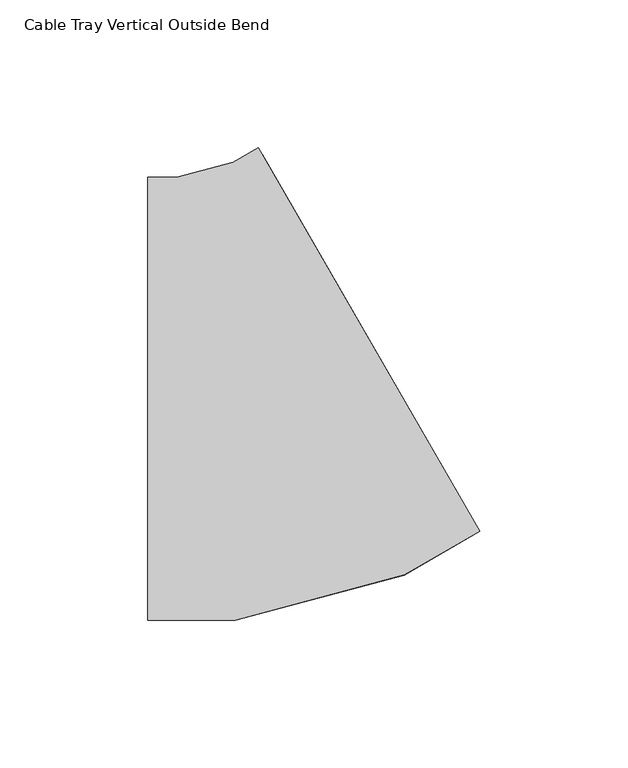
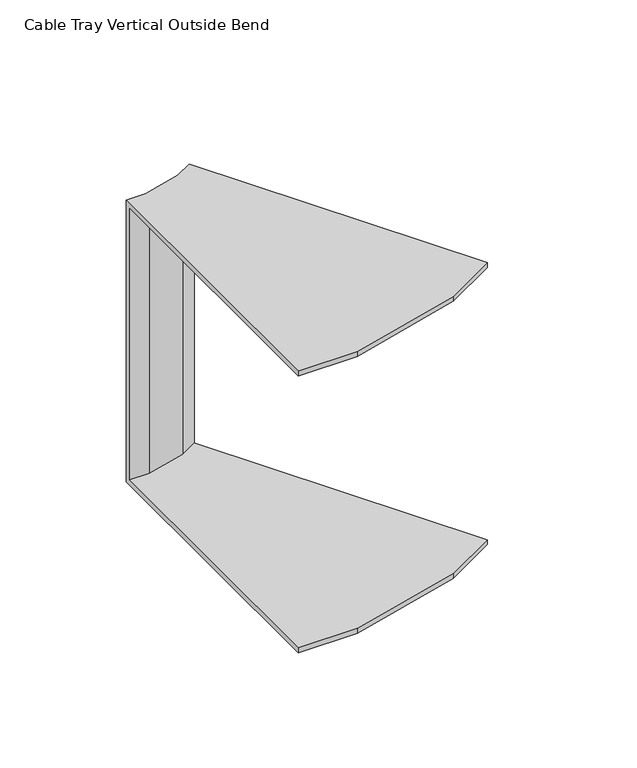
"""IFC4 building model written with IfcOpenShell, lengths in millimetres: cable carrier fitting geometry, Cable Tray Vertical Outside Bend : ELEC_ELV_TKG_N2402."""

from ifc_helpers import new_model, si_unit, origin, place, context, project, spatial, faceted_brep, source, transform, mapped, element, save


def cable_tray_vertical_outside_bend_05a7bdd1(model_context):
    return source(origin(), model_context, "Body", "Brep", [
        faceted_brep([(-40.1956671, -75.0, 75.0), (-40.1956671, 75.0, 75.0), (-40.1956671, 75.0, -75.0), (-40.1956671, -75.0, -75.0), (-40.1956671, -75.0, -72.46), (-40.1956671, 72.46, -72.46), (-40.1956671, 72.46, 72.46), (-40.1956671, -75.0, 72.46), (72.3123035, -44.8511138, 75.0), (72.3123035, -44.8511138, 72.46), (-1.4229202, 82.8499762, 72.46), (-1.4229202, 82.8499762, -72.46), (72.3123035, -44.8511138, -72.46), (72.3123035, -44.8511138, -75.0), (-2.6930102, 85.0496287, -75.0), (-2.6930102, 85.0496287, 75.0), (-10.5715143, -75.0, 75.0), (46.6576406, -59.6642396, 75.0), (-11.2445645, 80.1119201, 75.0), (-30.3209495, 75.0, 75.0), (-30.3209495, 75.0, -75.0), (-11.2445645, 80.1119201, -75.0), (46.6576406, -59.6642396, -75.0), (-10.5715143, -75.0, -75.0), (-10.5715143, -75.0, -72.46), (46.6576406, -59.6642396, -72.46), (-10.2640872, 77.7450438, -72.46), (-29.9865257, 72.46, -72.46), (-29.9865257, 72.46, 72.46), (-10.2640872, 77.7450438, 72.46), (46.6576406, -59.6642396, 72.46), (-10.5715143, -75.0, 72.46)], [[[0, 1, 2, 3, 4, 5, 6, 7]], [[8, 9, 10, 11, 12, 13, 14, 15]], [[1, 0, 16, 17, 8, 15, 18, 19]], [[2, 1, 19, 20]], [[3, 2, 20, 21, 14, 13, 22, 23]], [[4, 3, 23, 24]], [[5, 4, 24, 25, 12, 11, 26, 27]], [[6, 5, 27, 28]], [[7, 6, 28, 29, 10, 9, 30, 31]], [[0, 7, 31, 16]], [[20, 19, 18, 21]], [[24, 23, 22, 25]], [[28, 27, 26, 29]], [[16, 31, 30, 17]], [[21, 18, 15, 14]], [[25, 22, 13, 12]], [[29, 26, 11, 10]], [[17, 30, 9, 8]]]),
    ])


if __name__ == "__main__":
    model = new_model("IFC4")
    model_context = context("Model", 3, world=origin())
    ifc_project = project(units=[si_unit("LENGTHUNIT", "METRE", prefix="MILLI")], contexts=[model_context])
    site = spatial("IfcSite", under=ifc_project)
    building = spatial("IfcBuilding", under=site)
    placement = place(None, origin())
    cable_tray_vertical_outside_bend_shape = cable_tray_vertical_outside_bend_05a7bdd1(model_context)
    element("IfcCableCarrierFitting", 1, ObjectType="Cable Tray Vertical Outside Bend : ELEC_ELV_TKG_N2402", at=placement, inside=building, context=model_context, shape_type="MappedRepresentation", body=[
        mapped(cable_tray_vertical_outside_bend_shape, transform((0.0, 0.0, 0.0), x_axis=(1.0, 0.0, 0.0), y_axis=(0.0, 1.0, 0.0), z_axis=(0.0, 0.0, 1.0))),
    ])
    save(model, "model.ifc")
